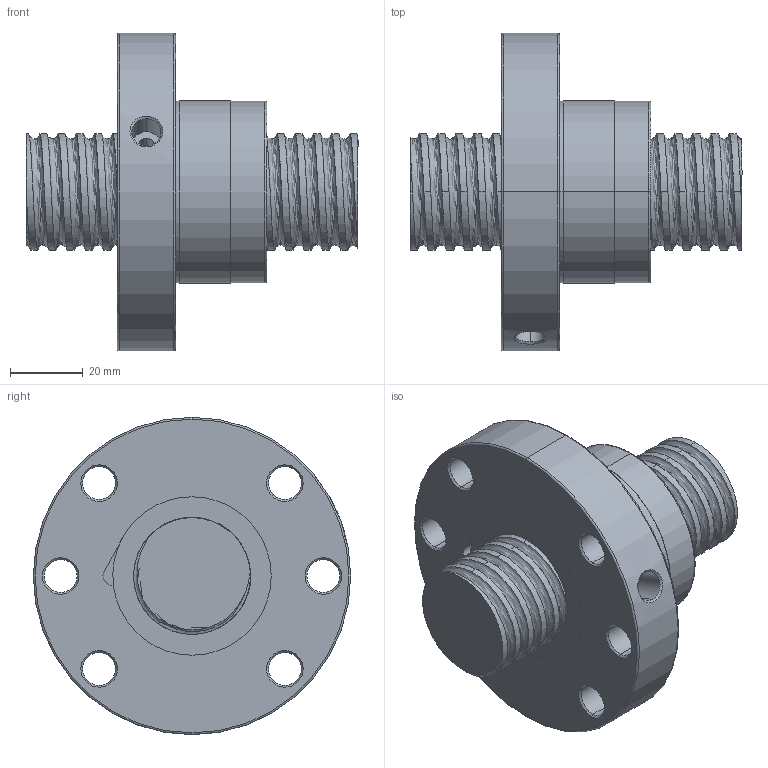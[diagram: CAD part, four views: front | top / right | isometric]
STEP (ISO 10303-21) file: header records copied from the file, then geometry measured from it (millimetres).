
FILE_DESCRIPTION (( 'STEP AP214' ), '1' );
FILE_NAME ('FSDC03205T4-B-A.STEP', '2010-06-25T11:45:18', ( 'XPAUTO' ), ( 'XPAUTO' ), 'SwSTEP 2.0', 'SolidWorks 2007', '' );
FILE_SCHEMA (( 'AUTOMOTIVE_DESIGN' ));
Length unit declared in the file: millimetre
Products named in the file (3): FSDC03205T4-B-A.sldasm-Part-1_預設; FSDC03205T4-B-A; FSDC03205T4-B-A.sldasm-Part-2_預設
Assembly tree (2 placements, depth 2):
  FSDC03205T4-B-A
    FSDC03205T4-B-A.sldasm-Part-1_預設
    FSDC03205T4-B-A.sldasm-Part-2_預設
Bounding box: 91 x 87 x 87 mm (x, y, z)
Volume: 171517.4 mm3; surface area: 38130.6 mm2
Topology: 2 solids, 2 shells, 128 faces, 322 edges, 203 vertices
Faces by surface type: cylinder 77, cone 24, plane 16, torus 6, bspline 5
Entity records: 26249 total; most frequent: CARTESIAN_POINT 23188, ORIENTED_EDGE 644, DIRECTION 590, EDGE_CURVE 322, AXIS2_PLACEMENT_3D 241, VERTEX_POINT 203, EDGE_LOOP 149, FACE_OUTER_BOUND 128
